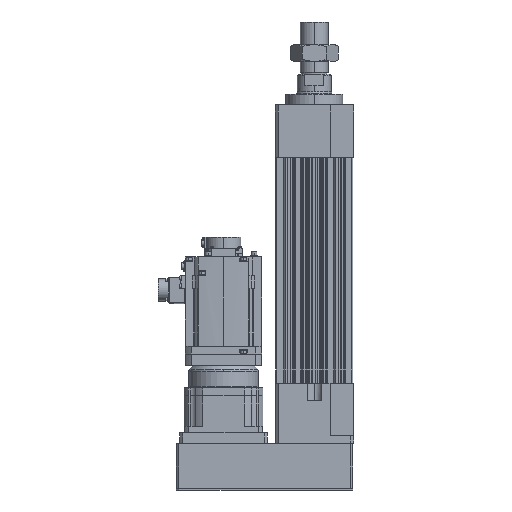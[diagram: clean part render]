
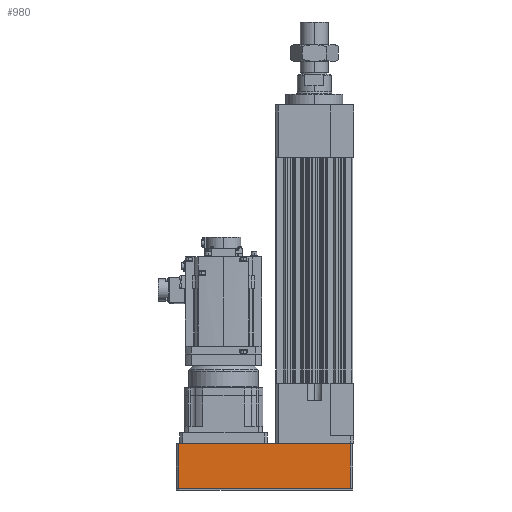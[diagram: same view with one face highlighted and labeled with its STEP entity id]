
A CAD part, left-side view. The second image highlights one B-rep face of the part: STEP entity #980.
In plain terms, the highlighted planar face has unit normal (-1, 0, 0).
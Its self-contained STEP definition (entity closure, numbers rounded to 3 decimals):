
#980 = ADVANCED_FACE ( 'NONE', ( #33658 ), #31053, .F. ) ;
#1406 = ORIENTED_EDGE ( 'NONE', *, *, #3467, .T. ) ;
#1432 = DIRECTION ( 'NONE',  ( 1., 0., 0. ) ) ;
#2420 = EDGE_LOOP ( 'NONE', ( #3956, #1406, #20380, #43705 ) ) ;
#3467 = EDGE_CURVE ( 'NONE', #54428, #48799, #46177, .T. ) ;
#3956 = ORIENTED_EDGE ( 'NONE', *, *, #53187, .T. ) ;
#6407 = DIRECTION ( 'NONE',  ( 0., -1., 0. ) ) ;
#7068 = DIRECTION ( 'NONE',  ( 0., 0., -1. ) ) ;
#7549 = CARTESIAN_POINT ( 'NONE',  ( -88., 82., 103.5 ) ) ;
#15052 = CARTESIAN_POINT ( 'NONE',  ( -88., 82., 104. ) ) ;
#16796 = DIRECTION ( 'NONE',  ( 0., 0., 1. ) ) ;
#17241 = VECTOR ( 'NONE', #7068, 1000. ) ;
#17308 = LINE ( 'NONE', #45675, #39842 ) ;
#19866 = EDGE_CURVE ( 'NONE', #48799, #33035, #17308, .T. ) ;
#19927 = CARTESIAN_POINT ( 'NONE',  ( -88., -310., 103.5 ) ) ;
#19947 = EDGE_CURVE ( 'NONE', #33035, #53029, #49744, .T. ) ;
#20380 = ORIENTED_EDGE ( 'NONE', *, *, #19866, .T. ) ;
#24008 = CARTESIAN_POINT ( 'NONE',  ( -88., 88., 0.5 ) ) ;
#27185 = LINE ( 'NONE', #15052, #17241 ) ;
#27327 = DIRECTION ( 'NONE',  ( 0., 1., 0. ) ) ;
#29928 = VECTOR ( 'NONE', #54578, 1000. ) ;
#31053 = PLANE ( 'NONE',  #53740 ) ;
#33035 = VERTEX_POINT ( 'NONE', #19927 ) ;
#33658 = FACE_OUTER_BOUND ( 'NONE', #2420, .T. ) ;
#39842 = VECTOR ( 'NONE', #16796, 1000. ) ;
#39916 = CARTESIAN_POINT ( 'NONE',  ( -88., 88., 104. ) ) ;
#43442 = CARTESIAN_POINT ( 'NONE',  ( -88., 82., 0.5 ) ) ;
#43705 = ORIENTED_EDGE ( 'NONE', *, *, #19947, .T. ) ;
#45675 = CARTESIAN_POINT ( 'NONE',  ( -88., -310., 104. ) ) ;
#46177 = LINE ( 'NONE', #24008, #46803 ) ;
#46521 = CARTESIAN_POINT ( 'NONE',  ( -88., -310., 0.5 ) ) ;
#46803 = VECTOR ( 'NONE', #6407, 1000. ) ;
#47966 = CARTESIAN_POINT ( 'NONE',  ( -88., 82., 103.5 ) ) ;
#48799 = VERTEX_POINT ( 'NONE', #46521 ) ;
#49744 = LINE ( 'NONE', #7549, #29928 ) ;
#53029 = VERTEX_POINT ( 'NONE', #47966 ) ;
#53187 = EDGE_CURVE ( 'NONE', #53029, #54428, #27185, .T. ) ;
#53740 = AXIS2_PLACEMENT_3D ( 'NONE', #39916, #1432, #27327 ) ;
#54428 = VERTEX_POINT ( 'NONE', #43442 ) ;
#54578 = DIRECTION ( 'NONE',  ( 0., 1., 0. ) ) ;
